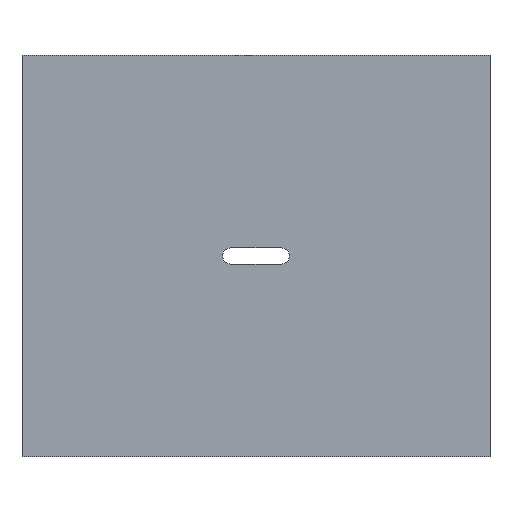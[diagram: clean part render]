
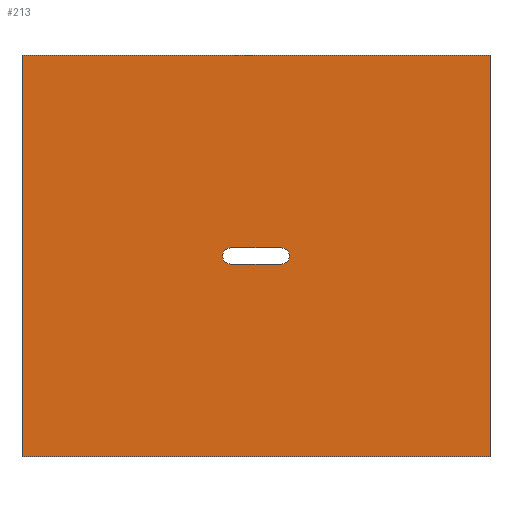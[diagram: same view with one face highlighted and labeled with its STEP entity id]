
A CAD part, top view. The second image highlights one B-rep face of the part: STEP entity #213.
In plain terms, the highlighted planar face has unit normal (0, 0, 1).
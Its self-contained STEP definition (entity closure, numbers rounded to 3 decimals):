
#24 = VERTEX_POINT('',#25);
#25 = CARTESIAN_POINT('',(510.,-150.,-125.));
#32 = PLANE('',#33);
#33 = AXIS2_PLACEMENT_3D('',#34,#35,#36);
#34 = CARTESIAN_POINT('',(510.,-150.,-134.));
#35 = DIRECTION('',(1.,0.,0.));
#36 = DIRECTION('',(0.,0.,1.));
#44 = PLANE('',#45);
#45 = AXIS2_PLACEMENT_3D('',#46,#47,#48);
#46 = CARTESIAN_POINT('',(510.,-150.,-134.));
#47 = DIRECTION('',(0.,1.,0.));
#48 = DIRECTION('',(0.,0.,1.));
#85 = VERTEX_POINT('',#86);
#86 = CARTESIAN_POINT('',(510.,150.,-125.));
#100 = PLANE('',#101);
#101 = AXIS2_PLACEMENT_3D('',#102,#103,#104);
#102 = CARTESIAN_POINT('',(510.,150.,-134.));
#103 = DIRECTION('',(0.,1.,0.));
#104 = DIRECTION('',(0.,0.,1.));
#112 = EDGE_CURVE('',#24,#85,#113,.T.);
#113 = SURFACE_CURVE('',#114,(#118,#125),.PCURVE_S1.);
#114 = LINE('',#115,#116);
#115 = CARTESIAN_POINT('',(510.,-150.,-125.));
#116 = VECTOR('',#117,1.);
#117 = DIRECTION('',(0.,1.,0.));
#118 = PCURVE('',#32,#119);
#119 = DEFINITIONAL_REPRESENTATION('',(#120),#124);
#120 = LINE('',#121,#122);
#121 = CARTESIAN_POINT('',(9.,0.));
#122 = VECTOR('',#123,1.);
#123 = DIRECTION('',(0.,-1.));
#124 = ( GEOMETRIC_REPRESENTATION_CONTEXT(2) 
PARAMETRIC_REPRESENTATION_CONTEXT() REPRESENTATION_CONTEXT('2D SPACE',''
  ) );
#125 = PCURVE('',#126,#131);
#126 = PLANE('',#127);
#127 = AXIS2_PLACEMENT_3D('',#128,#129,#130);
#128 = CARTESIAN_POINT('',(510.,-150.,-125.));
#129 = DIRECTION('',(0.,0.,1.));
#130 = DIRECTION('',(1.,0.,0.));
#131 = DEFINITIONAL_REPRESENTATION('',(#132),#136);
#132 = LINE('',#133,#134);
#133 = CARTESIAN_POINT('',(0.,0.));
#134 = VECTOR('',#135,1.);
#135 = DIRECTION('',(0.,1.));
#136 = ( GEOMETRIC_REPRESENTATION_CONTEXT(2) 
PARAMETRIC_REPRESENTATION_CONTEXT() REPRESENTATION_CONTEXT('2D SPACE',''
  ) );
#165 = EDGE_CURVE('',#24,#166,#168,.T.);
#166 = VERTEX_POINT('',#167);
#167 = CARTESIAN_POINT('',(860.,-150.,-125.));
#168 = SURFACE_CURVE('',#169,(#173,#180),.PCURVE_S1.);
#169 = LINE('',#170,#171);
#170 = CARTESIAN_POINT('',(510.,-150.,-125.));
#171 = VECTOR('',#172,1.);
#172 = DIRECTION('',(1.,0.,0.));
#173 = PCURVE('',#44,#174);
#174 = DEFINITIONAL_REPRESENTATION('',(#175),#179);
#175 = LINE('',#176,#177);
#176 = CARTESIAN_POINT('',(9.,0.));
#177 = VECTOR('',#178,1.);
#178 = DIRECTION('',(0.,1.));
#179 = ( GEOMETRIC_REPRESENTATION_CONTEXT(2) 
PARAMETRIC_REPRESENTATION_CONTEXT() REPRESENTATION_CONTEXT('2D SPACE',''
  ) );
#180 = PCURVE('',#126,#181);
#181 = DEFINITIONAL_REPRESENTATION('',(#182),#186);
#182 = LINE('',#183,#184);
#183 = CARTESIAN_POINT('',(0.,0.));
#184 = VECTOR('',#185,1.);
#185 = DIRECTION('',(1.,0.));
#186 = ( GEOMETRIC_REPRESENTATION_CONTEXT(2) 
PARAMETRIC_REPRESENTATION_CONTEXT() REPRESENTATION_CONTEXT('2D SPACE',''
  ) );
#202 = PLANE('',#203);
#203 = AXIS2_PLACEMENT_3D('',#204,#205,#206);
#204 = CARTESIAN_POINT('',(860.,-150.,-134.));
#205 = DIRECTION('',(1.,0.,0.));
#206 = DIRECTION('',(0.,0.,1.));
#213 = ADVANCED_FACE('',(#214,#262),#126,.T.);
#214 = FACE_BOUND('',#215,.T.);
#215 = EDGE_LOOP('',(#216,#217,#218,#241));
#216 = ORIENTED_EDGE('',*,*,#112,.F.);
#217 = ORIENTED_EDGE('',*,*,#165,.T.);
#218 = ORIENTED_EDGE('',*,*,#219,.T.);
#219 = EDGE_CURVE('',#166,#220,#222,.T.);
#220 = VERTEX_POINT('',#221);
#221 = CARTESIAN_POINT('',(860.,150.,-125.));
#222 = SURFACE_CURVE('',#223,(#227,#234),.PCURVE_S1.);
#223 = LINE('',#224,#225);
#224 = CARTESIAN_POINT('',(860.,-150.,-125.));
#225 = VECTOR('',#226,1.);
#226 = DIRECTION('',(0.,1.,0.));
#227 = PCURVE('',#126,#228);
#228 = DEFINITIONAL_REPRESENTATION('',(#229),#233);
#229 = LINE('',#230,#231);
#230 = CARTESIAN_POINT('',(350.,0.));
#231 = VECTOR('',#232,1.);
#232 = DIRECTION('',(0.,1.));
#233 = ( GEOMETRIC_REPRESENTATION_CONTEXT(2) 
PARAMETRIC_REPRESENTATION_CONTEXT() REPRESENTATION_CONTEXT('2D SPACE',''
  ) );
#234 = PCURVE('',#202,#235);
#235 = DEFINITIONAL_REPRESENTATION('',(#236),#240);
#236 = LINE('',#237,#238);
#237 = CARTESIAN_POINT('',(9.,0.));
#238 = VECTOR('',#239,1.);
#239 = DIRECTION('',(0.,-1.));
#240 = ( GEOMETRIC_REPRESENTATION_CONTEXT(2) 
PARAMETRIC_REPRESENTATION_CONTEXT() REPRESENTATION_CONTEXT('2D SPACE',''
  ) );
#241 = ORIENTED_EDGE('',*,*,#242,.F.);
#242 = EDGE_CURVE('',#85,#220,#243,.T.);
#243 = SURFACE_CURVE('',#244,(#248,#255),.PCURVE_S1.);
#244 = LINE('',#245,#246);
#245 = CARTESIAN_POINT('',(510.,150.,-125.));
#246 = VECTOR('',#247,1.);
#247 = DIRECTION('',(1.,0.,0.));
#248 = PCURVE('',#126,#249);
#249 = DEFINITIONAL_REPRESENTATION('',(#250),#254);
#250 = LINE('',#251,#252);
#251 = CARTESIAN_POINT('',(0.,300.));
#252 = VECTOR('',#253,1.);
#253 = DIRECTION('',(1.,0.));
#254 = ( GEOMETRIC_REPRESENTATION_CONTEXT(2) 
PARAMETRIC_REPRESENTATION_CONTEXT() REPRESENTATION_CONTEXT('2D SPACE',''
  ) );
#255 = PCURVE('',#100,#256);
#256 = DEFINITIONAL_REPRESENTATION('',(#257),#261);
#257 = LINE('',#258,#259);
#258 = CARTESIAN_POINT('',(9.,0.));
#259 = VECTOR('',#260,1.);
#260 = DIRECTION('',(0.,1.));
#261 = ( GEOMETRIC_REPRESENTATION_CONTEXT(2) 
PARAMETRIC_REPRESENTATION_CONTEXT() REPRESENTATION_CONTEXT('2D SPACE',''
  ) );
#262 = FACE_BOUND('',#263,.T.);
#263 = EDGE_LOOP('',(#264,#292,#325,#351));
#264 = ORIENTED_EDGE('',*,*,#265,.F.);
#265 = EDGE_CURVE('',#266,#268,#270,.T.);
#266 = VERTEX_POINT('',#267);
#267 = CARTESIAN_POINT('',(704.,6.,-125.));
#268 = VERTEX_POINT('',#269);
#269 = CARTESIAN_POINT('',(666.,6.,-125.));
#270 = SURFACE_CURVE('',#271,(#275,#281),.PCURVE_S1.);
#271 = LINE('',#272,#273);
#272 = CARTESIAN_POINT('',(588.,6.,-125.));
#273 = VECTOR('',#274,1.);
#274 = DIRECTION('',(-1.,0.,0.));
#275 = PCURVE('',#126,#276);
#276 = DEFINITIONAL_REPRESENTATION('',(#277),#280);
#277 = B_SPLINE_CURVE_WITH_KNOTS('',1,(#278,#279),.UNSPECIFIED.,.F.,.F.,
  (2,2),(-116.,-78.),.PIECEWISE_BEZIER_KNOTS.);
#278 = CARTESIAN_POINT('',(194.,156.));
#279 = CARTESIAN_POINT('',(156.,156.));
#280 = ( GEOMETRIC_REPRESENTATION_CONTEXT(2) 
PARAMETRIC_REPRESENTATION_CONTEXT() REPRESENTATION_CONTEXT('2D SPACE',''
  ) );
#281 = PCURVE('',#282,#287);
#282 = PLANE('',#283);
#283 = AXIS2_PLACEMENT_3D('',#284,#285,#286);
#284 = CARTESIAN_POINT('',(666.,6.,-135.));
#285 = DIRECTION('',(0.,1.,0.));
#286 = DIRECTION('',(1.,0.,0.));
#287 = DEFINITIONAL_REPRESENTATION('',(#288),#291);
#288 = B_SPLINE_CURVE_WITH_KNOTS('',1,(#289,#290),.UNSPECIFIED.,.F.,.F.,
  (2,2),(-116.,-78.),.PIECEWISE_BEZIER_KNOTS.);
#289 = CARTESIAN_POINT('',(38.,-10.));
#290 = CARTESIAN_POINT('',(0.,-10.));
#291 = ( GEOMETRIC_REPRESENTATION_CONTEXT(2) 
PARAMETRIC_REPRESENTATION_CONTEXT() REPRESENTATION_CONTEXT('2D SPACE',''
  ) );
#292 = ORIENTED_EDGE('',*,*,#293,.T.);
#293 = EDGE_CURVE('',#266,#294,#296,.T.);
#294 = VERTEX_POINT('',#295);
#295 = CARTESIAN_POINT('',(704.,-6.,-125.));
#296 = SURFACE_CURVE('',#297,(#302,#313),.PCURVE_S1.);
#297 = CIRCLE('',#298,6.);
#298 = AXIS2_PLACEMENT_3D('',#299,#300,#301);
#299 = CARTESIAN_POINT('',(704.,0.,-125.));
#300 = DIRECTION('',(0.,0.,-1.));
#301 = DIRECTION('',(0.,1.,0.));
#302 = PCURVE('',#126,#303);
#303 = DEFINITIONAL_REPRESENTATION('',(#304),#312);
#304 = ( BOUNDED_CURVE() B_SPLINE_CURVE(2,(#305,#306,#307,#308,#309,#310
,#311),.UNSPECIFIED.,.T.,.F.) B_SPLINE_CURVE_WITH_KNOTS((1,2,2,2,2,1),(
    -2.094,0.,2.094,4.189,6.283,
8.378),.UNSPECIFIED.) CURVE() GEOMETRIC_REPRESENTATION_ITEM() 
RATIONAL_B_SPLINE_CURVE((1.,0.5,1.,0.5,1.,0.5,1.)) REPRESENTATION_ITEM(
  '') );
#305 = CARTESIAN_POINT('',(194.,156.));
#306 = CARTESIAN_POINT('',(204.392,156.));
#307 = CARTESIAN_POINT('',(199.196,147.));
#308 = CARTESIAN_POINT('',(194.,138.));
#309 = CARTESIAN_POINT('',(188.804,147.));
#310 = CARTESIAN_POINT('',(183.608,156.));
#311 = CARTESIAN_POINT('',(194.,156.));
#312 = ( GEOMETRIC_REPRESENTATION_CONTEXT(2) 
PARAMETRIC_REPRESENTATION_CONTEXT() REPRESENTATION_CONTEXT('2D SPACE',''
  ) );
#313 = PCURVE('',#314,#319);
#314 = CYLINDRICAL_SURFACE('',#315,6.);
#315 = AXIS2_PLACEMENT_3D('',#316,#317,#318);
#316 = CARTESIAN_POINT('',(704.,0.,-135.));
#317 = DIRECTION('',(0.,0.,-1.));
#318 = DIRECTION('',(0.,1.,0.));
#319 = DEFINITIONAL_REPRESENTATION('',(#320),#324);
#320 = LINE('',#321,#322);
#321 = CARTESIAN_POINT('',(0.,-10.));
#322 = VECTOR('',#323,1.);
#323 = DIRECTION('',(1.,0.));
#324 = ( GEOMETRIC_REPRESENTATION_CONTEXT(2) 
PARAMETRIC_REPRESENTATION_CONTEXT() REPRESENTATION_CONTEXT('2D SPACE',''
  ) );
#325 = ORIENTED_EDGE('',*,*,#326,.F.);
#326 = EDGE_CURVE('',#327,#294,#329,.T.);
#327 = VERTEX_POINT('',#328);
#328 = CARTESIAN_POINT('',(666.,-6.,-125.));
#329 = SURFACE_CURVE('',#330,(#334,#340),.PCURVE_S1.);
#330 = LINE('',#331,#332);
#331 = CARTESIAN_POINT('',(607.,-6.,-125.));
#332 = VECTOR('',#333,1.);
#333 = DIRECTION('',(1.,0.,-0.));
#334 = PCURVE('',#126,#335);
#335 = DEFINITIONAL_REPRESENTATION('',(#336),#339);
#336 = B_SPLINE_CURVE_WITH_KNOTS('',1,(#337,#338),.UNSPECIFIED.,.F.,.F.,
  (2,2),(59.,97.),.PIECEWISE_BEZIER_KNOTS.);
#337 = CARTESIAN_POINT('',(156.,144.));
#338 = CARTESIAN_POINT('',(194.,144.));
#339 = ( GEOMETRIC_REPRESENTATION_CONTEXT(2) 
PARAMETRIC_REPRESENTATION_CONTEXT() REPRESENTATION_CONTEXT('2D SPACE',''
  ) );
#340 = PCURVE('',#341,#346);
#341 = PLANE('',#342);
#342 = AXIS2_PLACEMENT_3D('',#343,#344,#345);
#343 = CARTESIAN_POINT('',(704.,-6.,-135.));
#344 = DIRECTION('',(0.,-1.,0.));
#345 = DIRECTION('',(-1.,0.,0.));
#346 = DEFINITIONAL_REPRESENTATION('',(#347),#350);
#347 = B_SPLINE_CURVE_WITH_KNOTS('',1,(#348,#349),.UNSPECIFIED.,.F.,.F.,
  (2,2),(59.,97.),.PIECEWISE_BEZIER_KNOTS.);
#348 = CARTESIAN_POINT('',(38.,-10.));
#349 = CARTESIAN_POINT('',(0.,-10.));
#350 = ( GEOMETRIC_REPRESENTATION_CONTEXT(2) 
PARAMETRIC_REPRESENTATION_CONTEXT() REPRESENTATION_CONTEXT('2D SPACE',''
  ) );
#351 = ORIENTED_EDGE('',*,*,#352,.T.);
#352 = EDGE_CURVE('',#327,#268,#353,.T.);
#353 = SURFACE_CURVE('',#354,(#359,#370),.PCURVE_S1.);
#354 = CIRCLE('',#355,6.);
#355 = AXIS2_PLACEMENT_3D('',#356,#357,#358);
#356 = CARTESIAN_POINT('',(666.,0.,-125.));
#357 = DIRECTION('',(0.,-0.,-1.));
#358 = DIRECTION('',(0.,-1.,0.));
#359 = PCURVE('',#126,#360);
#360 = DEFINITIONAL_REPRESENTATION('',(#361),#369);
#361 = ( BOUNDED_CURVE() B_SPLINE_CURVE(2,(#362,#363,#364,#365,#366,#367
,#368),.UNSPECIFIED.,.T.,.F.) B_SPLINE_CURVE_WITH_KNOTS((1,2,2,2,2,1),(
    -2.094,0.,2.094,4.189,6.283,
8.378),.UNSPECIFIED.) CURVE() GEOMETRIC_REPRESENTATION_ITEM() 
RATIONAL_B_SPLINE_CURVE((1.,0.5,1.,0.5,1.,0.5,1.)) REPRESENTATION_ITEM(
  '') );
#362 = CARTESIAN_POINT('',(156.,144.));
#363 = CARTESIAN_POINT('',(145.608,144.));
#364 = CARTESIAN_POINT('',(150.804,153.));
#365 = CARTESIAN_POINT('',(156.,162.));
#366 = CARTESIAN_POINT('',(161.196,153.));
#367 = CARTESIAN_POINT('',(166.392,144.));
#368 = CARTESIAN_POINT('',(156.,144.));
#369 = ( GEOMETRIC_REPRESENTATION_CONTEXT(2) 
PARAMETRIC_REPRESENTATION_CONTEXT() REPRESENTATION_CONTEXT('2D SPACE',''
  ) );
#370 = PCURVE('',#371,#376);
#371 = CYLINDRICAL_SURFACE('',#372,6.);
#372 = AXIS2_PLACEMENT_3D('',#373,#374,#375);
#373 = CARTESIAN_POINT('',(666.,0.,-135.));
#374 = DIRECTION('',(0.,-0.,-1.));
#375 = DIRECTION('',(0.,-1.,0.));
#376 = DEFINITIONAL_REPRESENTATION('',(#377),#381);
#377 = LINE('',#378,#379);
#378 = CARTESIAN_POINT('',(0.,-10.));
#379 = VECTOR('',#380,1.);
#380 = DIRECTION('',(1.,0.));
#381 = ( GEOMETRIC_REPRESENTATION_CONTEXT(2) 
PARAMETRIC_REPRESENTATION_CONTEXT() REPRESENTATION_CONTEXT('2D SPACE',''
  ) );
